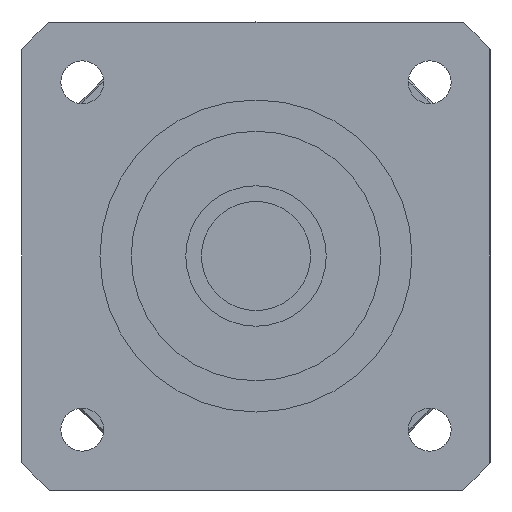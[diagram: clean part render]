
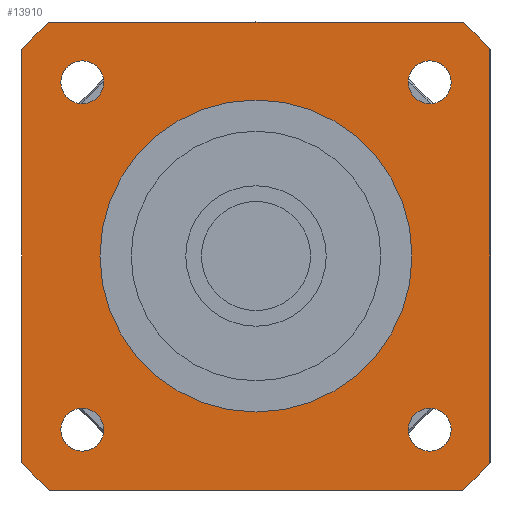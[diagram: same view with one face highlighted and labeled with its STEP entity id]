
A CAD part, left-side view. The second image highlights one B-rep face of the part: STEP entity #13910.
In plain terms, the highlighted planar face has unit normal (-1, 0, 0) as drawn and (0, 0, -1) by its records, which use the part's own axes.
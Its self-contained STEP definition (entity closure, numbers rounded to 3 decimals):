
#8700=CARTESIAN_POINT('',(-19.524,22.274,-35.));
#8710=VERTEX_POINT('',#8700);
#8870=CARTESIAN_POINT('',(-25.024,22.274,-35.));
#8880=VERTEX_POINT('',#8870);
#8910=CARTESIAN_POINT('',(-22.274,22.274,-35.));
#8920=DIRECTION('',(0.,0.,-1.));
#8930=DIRECTION('',(-1.,0.,0.));
#8940=AXIS2_PLACEMENT_3D('',#8910,#8920,#8930);
#8950=CIRCLE('',#8940,2.75);
#8960=EDGE_CURVE('',#8710,#8880,#8950,.T.);
#12280=CARTESIAN_POINT('',(20.,0.,-35.));
#12290=VERTEX_POINT('',#12280);
#12320=CARTESIAN_POINT('',(0.,0.,
-35.));
#12330=DIRECTION('',(0.,0.,1.));
#12340=DIRECTION('',(0.,1.,0.));
#12350=AXIS2_PLACEMENT_3D('',#12320,#12330,#12340);
#12360=CIRCLE('',#12350,20.);
#12370=CARTESIAN_POINT('',(0.,20.,-35.));
#12380=VERTEX_POINT('',#12370);
#12390=EDGE_CURVE('',#12290,#12380,#12360,.T.);
#12410=CARTESIAN_POINT('',(-20.,0.,-35.));
#12420=VERTEX_POINT('',#12410);
#12430=EDGE_CURVE('',#12380,#12420,#12360,.T.);
#12560=CARTESIAN_POINT('',(30.,30.,-35.));
#12570=DIRECTION('',(0.,0.,-1.));
#12580=DIRECTION('',(1.,0.,0.));
#12590=AXIS2_PLACEMENT_3D('',#12560,#12570,#12580);
#12600=PLANE('',#12590);
#12610=CARTESIAN_POINT('',(-22.274,-22.274,-35.));
#12620=DIRECTION('',(0.,0.,-1.));
#12630=DIRECTION('',(0.,-1.,0.));
#12640=AXIS2_PLACEMENT_3D('',#12610,#12620,#12630);
#12650=CIRCLE('',#12640,2.75);
#12660=CARTESIAN_POINT('',(-19.564,-22.743,-35.));
#12670=VERTEX_POINT('',#12660);
#12680=CARTESIAN_POINT('',(-22.274,-25.024,-35.));
#12690=VERTEX_POINT('',#12680);
#12700=EDGE_CURVE('',#12670,#12690,#12650,.T.);
#12710=ORIENTED_EDGE('',*,*,#12700,.F.);
#12720=CARTESIAN_POINT('',(-22.274,-19.524,-35.));
#12730=VERTEX_POINT('',#12720);
#12740=EDGE_CURVE('',#12690,#12730,#12650,.T.);
#12750=ORIENTED_EDGE('',*,*,#12740,.F.);
#12760=EDGE_CURVE('',#12730,#12670,#12650,.T.);
#12770=ORIENTED_EDGE('',*,*,#12760,.F.);
#12780=EDGE_LOOP('',(#12770,#12750,#12710));
#12790=FACE_BOUND('',#12780,.T.);
#12800=EDGE_CURVE('',#12420,#12290,#12360,.T.);
#12810=ORIENTED_EDGE('',*,*,#12800,.T.);
#12820=ORIENTED_EDGE('',*,*,#12430,.T.);
#12830=ORIENTED_EDGE('',*,*,#12390,.T.);
#12840=EDGE_LOOP('',(#12830,#12820,#12810));
#12850=FACE_BOUND('',#12840,.T.);
#12860=CARTESIAN_POINT('',(22.274,-22.274,-35.));
#12870=DIRECTION('',(0.,0.,-1.));
#12880=DIRECTION('',(1.,0.,0.));
#12890=AXIS2_PLACEMENT_3D('',#12860,#12870,#12880);
#12900=CIRCLE('',#12890,2.75);
#12910=CARTESIAN_POINT('',(25.024,-22.274,-35.));
#12920=VERTEX_POINT('',#12910);
#12930=CARTESIAN_POINT('',(19.524,-22.274,-35.));
#12940=VERTEX_POINT('',#12930);
#12950=EDGE_CURVE('',#12920,#12940,#12900,.T.);
#12960=ORIENTED_EDGE('',*,*,#12950,.F.);
#12970=EDGE_CURVE('',#12940,#12920,#12900,.T.);
#12980=ORIENTED_EDGE('',*,*,#12970,.F.);
#12990=EDGE_LOOP('',(#12980,#12960));
#13000=FACE_BOUND('',#12990,.T.);
#13010=CARTESIAN_POINT('',(22.274,22.274,-35.));
#13020=DIRECTION('',(0.,0.,-1.));
#13030=DIRECTION('',(0.,1.,0.));
#13040=AXIS2_PLACEMENT_3D('',#13010,#13020,#13030);
#13050=CIRCLE('',#13040,2.75);
#13060=CARTESIAN_POINT('',(22.274,25.024,-35.));
#13070=VERTEX_POINT('',#13060);
#13080=CARTESIAN_POINT('',(22.274,19.524,-35.));
#13090=VERTEX_POINT('',#13080);
#13100=EDGE_CURVE('',#13070,#13090,#13050,.T.);
#13110=ORIENTED_EDGE('',*,*,#13100,.F.);
#13120=EDGE_CURVE('',#13090,#13070,#13050,.T.);
#13130=ORIENTED_EDGE('',*,*,#13120,.F.);
#13140=EDGE_LOOP('',(#13130,#13110));
#13150=FACE_BOUND('',#13140,.T.);
#13160=CARTESIAN_POINT('',(0.,0.,
-35.));
#13170=DIRECTION('',(0.,0.,-1.));
#13180=DIRECTION('',(1.,0.,0.));
#13190=AXIS2_PLACEMENT_3D('',#13160,#13170,#13180);
#13200=CIRCLE('',#13190,40.);
#13210=CARTESIAN_POINT('',(-30.,26.458,-35.));
#13220=VERTEX_POINT('',#13210);
#13230=CARTESIAN_POINT('',(-26.458,30.,-35.));
#13240=VERTEX_POINT('',#13230);
#13250=EDGE_CURVE('',#13220,#13240,#13200,.T.);
#13260=ORIENTED_EDGE('',*,*,#13250,.T.);
#13270=CARTESIAN_POINT('',(-30.,-30.,-35.));
#13280=DIRECTION('',(0.,1.,0.));
#13290=VECTOR('',#13280,1000.);
#13300=LINE('',#13270,#13290);
#13310=CARTESIAN_POINT('',(-30.,-26.458,-35.));
#13320=VERTEX_POINT('',#13310);
#13330=EDGE_CURVE('',#13320,#13220,#13300,.T.);
#13340=ORIENTED_EDGE('',*,*,#13330,.T.);
#13350=CARTESIAN_POINT('',(0.,0.,
-35.));
#13360=DIRECTION('',(0.,0.,-1.));
#13370=DIRECTION('',(1.,0.,0.));
#13380=AXIS2_PLACEMENT_3D('',#13350,#13360,#13370);
#13390=CIRCLE('',#13380,40.);
#13400=CARTESIAN_POINT('',(-26.458,-30.,-35.));
#13410=VERTEX_POINT('',#13400);
#13420=EDGE_CURVE('',#13410,#13320,#13390,.T.);
#13430=ORIENTED_EDGE('',*,*,#13420,.T.);
#13440=CARTESIAN_POINT('',(30.,-30.,-35.));
#13450=DIRECTION('',(-1.,0.,0.));
#13460=VECTOR('',#13450,1000.);
#13470=LINE('',#13440,#13460);
#13480=CARTESIAN_POINT('',(26.458,-30.,-35.));
#13490=VERTEX_POINT('',#13480);
#13500=EDGE_CURVE('',#13490,#13410,#13470,.T.);
#13510=ORIENTED_EDGE('',*,*,#13500,.T.);
#13520=CARTESIAN_POINT('',(0.,0.,
-35.));
#13530=DIRECTION('',(0.,0.,-1.));
#13540=DIRECTION('',(1.,0.,0.));
#13550=AXIS2_PLACEMENT_3D('',#13520,#13530,#13540);
#13560=CIRCLE('',#13550,40.);
#13570=CARTESIAN_POINT('',(30.,-26.458,-35.));
#13580=VERTEX_POINT('',#13570);
#13590=EDGE_CURVE('',#13580,#13490,#13560,.T.);
#13600=ORIENTED_EDGE('',*,*,#13590,.T.);
#13610=CARTESIAN_POINT('',(30.,30.,-35.));
#13620=DIRECTION('',(0.,-1.,0.));
#13630=VECTOR('',#13620,1000.);
#13640=LINE('',#13610,#13630);
#13650=CARTESIAN_POINT('',(30.,26.458,-35.));
#13660=VERTEX_POINT('',#13650);
#13670=EDGE_CURVE('',#13660,#13580,#13640,.T.);
#13680=ORIENTED_EDGE('',*,*,#13670,.T.);
#13690=CARTESIAN_POINT('',(0.,0.,
-35.));
#13700=DIRECTION('',(0.,0.,-1.));
#13710=DIRECTION('',(1.,0.,0.));
#13720=AXIS2_PLACEMENT_3D('',#13690,#13700,#13710);
#13730=CIRCLE('',#13720,40.);
#13740=CARTESIAN_POINT('',(26.458,30.,-35.));
#13750=VERTEX_POINT('',#13740);
#13760=EDGE_CURVE('',#13750,#13660,#13730,.T.);
#13770=ORIENTED_EDGE('',*,*,#13760,.T.);
#13780=CARTESIAN_POINT('',(-30.,30.,-35.));
#13790=DIRECTION('',(1.,0.,0.));
#13800=VECTOR('',#13790,1000.);
#13810=LINE('',#13780,#13800);
#13820=EDGE_CURVE('',#13240,#13750,#13810,.T.);
#13830=ORIENTED_EDGE('',*,*,#13820,.T.);
#13840=EDGE_LOOP('',(#13830,#13770,#13680,#13600,#13510,#13430,#13340,
#13260));
#13850=FACE_OUTER_BOUND('',#13840,.T.);
#13860=EDGE_CURVE('',#8880,#8710,#8950,.T.);
#13870=ORIENTED_EDGE('',*,*,#13860,.F.);
#13880=ORIENTED_EDGE('',*,*,#8960,.F.);
#13890=EDGE_LOOP('',(#13880,#13870));
#13900=FACE_BOUND('',#13890,.T.);
#13910=ADVANCED_FACE('',(#12790,#12850,#13000,#13150,#13850,#13900),
#12600,.T.);
